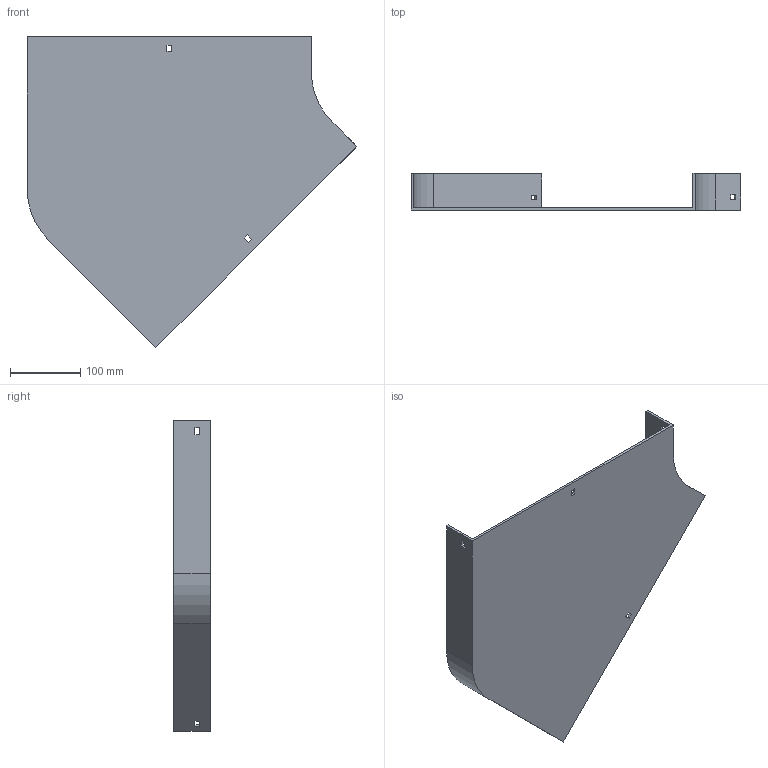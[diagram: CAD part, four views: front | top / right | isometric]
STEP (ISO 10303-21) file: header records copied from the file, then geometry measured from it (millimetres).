
FILE_DESCRIPTION (( 'STEP AP214' ), '1' );
FILE_NAME ('11B1B400.step', '2025-02-21T09:37:45', ( '' ), ( '' ), 'SwSTEP 2.0', 'SolidWorks 2023', '' );
FILE_SCHEMA (( 'AUTOMOTIVE_DESIGN' ));
Length unit declared in the file: millimetre
Products named in the file (1): 11B1B400
Bounding box: 468.64 x 52 x 441.74 mm (x, y, z)
Volume: 611199 mm3; surface area: 355877.8 mm2
Topology: 1 solids, 1 shells, 42 faces, 120 edges, 80 vertices
Faces by surface type: plane 38, cylinder 4
Entity records: 1399 total; most frequent: CARTESIAN_POINT 243, ORIENTED_EDGE 240, DIRECTION 214, EDGE_CURVE 120, LINE 112, VECTOR 112, VERTEX_POINT 80, EDGE_LOOP 54
